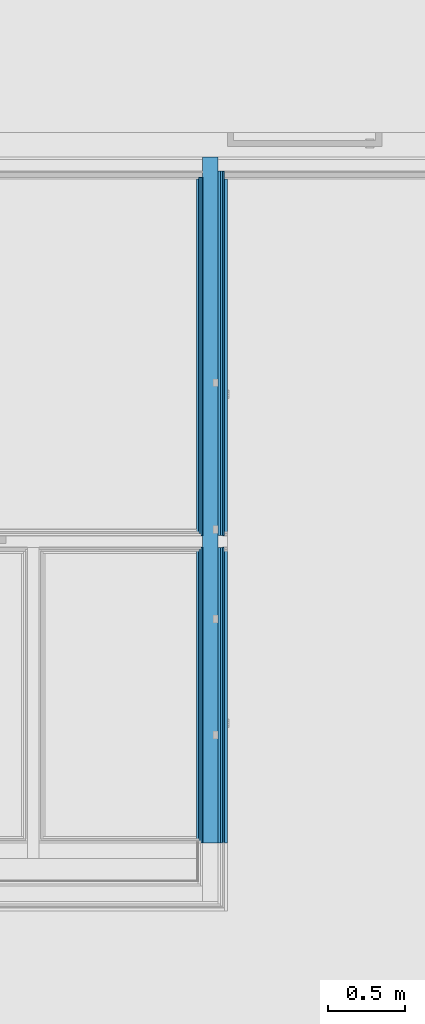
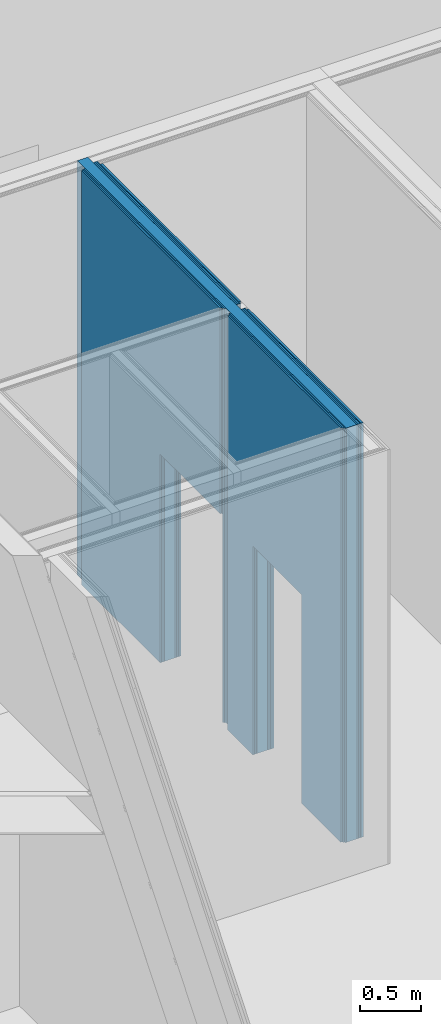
# One storey, part 150 of 260: 8 building element parts, 2 openings, 1 element without a shape of its own.
"""IFC2X3 building model written with IfcOpenShell, lengths in millimetres."""

from ifc_helpers import new_model, entity, si_unit, converted_unit, derived_unit, money_unit, direction, frame, origin_with_axes, place, context, subcontext, project, spatial, faceted_brep, material, type_object, element, aggregate, save


model = new_model("IFC2X3")

# Units and contexts
model_context = context("Model", 3, precision=0.01, world=origin_with_axes(), true_north=direction((0.0, 1.0)))
body_context = subcontext(model_context, "Body", "Model", "MODEL_VIEW")
ifc_project = project(units=[si_unit("LENGTHUNIT", "METRE", prefix="MILLI"), si_unit("AREAUNIT", "SQUARE_METRE"), si_unit("VOLUMEUNIT", "CUBIC_METRE"), converted_unit("PLANEANGLEUNIT", "DEGREE", entity("IfcPlaneAngleMeasure", 0.0174532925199), si_unit("PLANEANGLEUNIT", "RADIAN"), dimensions=[0, 0, 0, 0, 0, 0, 0]), money_unit("EUR"), converted_unit("TIMEUNIT", "Year", entity("IfcTimeMeasure", 31556926.0), si_unit("TIMEUNIT", "SECOND"), dimensions=[0, 0, 1, 0, 0, 0, 0]), si_unit("MASSUNIT", "GRAM", prefix="KILO"), si_unit("THERMODYNAMICTEMPERATUREUNIT", "DEGREE_CELSIUS"), si_unit("LUMINOUSINTENSITYUNIT", "LUMEN"), si_unit("ENERGYUNIT", "JOULE", prefix="MEGA"), derived_unit("THERMALCONDUCTANCEUNIT", [(si_unit("POWERUNIT", "WATT"), 1), (si_unit("LENGTHUNIT", "METRE"), -1), (si_unit("THERMODYNAMICTEMPERATUREUNIT", "KELVIN"), -1)]), derived_unit("SPECIFICHEATCAPACITYUNIT", [(si_unit("ENERGYUNIT", "JOULE"), 1), (si_unit("MASSUNIT", "GRAM", prefix="KILO"), -1), (si_unit("THERMODYNAMICTEMPERATUREUNIT", "KELVIN"), -1)]), derived_unit("MASSDENSITYUNIT", [(si_unit("MASSUNIT", "GRAM", prefix="KILO"), 1), (si_unit("VOLUMEUNIT", "CUBIC_METRE"), -1)])], contexts=[model_context])

# Site, building, storey
site_placement = place(None, origin_with_axes())
site = spatial("IfcSite", under=ifc_project, at=site_placement, Name="Kolde pst 67a", CompositionType="ELEMENT")
building_placement = place(site_placement, origin_with_axes())
building = spatial("IfcBuilding", under=site, at=building_placement, Name="Riigigümnaasium", CompositionType="ELEMENT")
storey_placement = place(building_placement, origin_with_axes())
storey = spatial("IfcBuildingStorey", under=building, at=storey_placement, Name="1. korrus", CompositionType="ELEMENT", Elevation=0.0)

# Wall, openings, building element parts
wall_type = type_object("IfcWallType", Name="SS-PK-10/2_vill100+dold+plaat 200", PredefinedType="NOTDEFINED")
wall_placement = place(storey_placement, frame((6499.99873186, 52239.9801745, 0.0), z_axis=(0.0, 0.0, 1.0), x_axis=(0.0, 1.0, 0.0)))
wall = element("IfcWall", 1, at=wall_placement, inside=storey, type_object=wall_type, Name="Sisesein")
opening_1_placement = place(wall_placement, frame((2504.0352353, 0.0, 0.0), z_axis=(0.0, 0.0, 1.0), x_axis=(1.0, 0.0, 0.0)))
element("IfcOpeningElement", 2, at=opening_1_placement, cuts=wall, Name="Siseuks", context=body_context, shape_type="Brep", body=[
    faceted_brep([(-500.0, 200.0, 2100.0), (-500.0, 200.0, 0.0), (-500.0, -400.0, 0.0), (-500.0, -400.0, 2100.0), (500.0, 200.0, 2100.0), (500.0, 200.0, 0.0), (500.0, -400.0, 0.0), (500.0, -400.0, 2100.0)], [[[0, 1, 2, 3]], [[0, 4, 5, 1]], [[1, 5, 6, 2]], [[3, 2, 6, 7]], [[4, 0, 3, 7]], [[5, 4, 7, 6]]]),
])
opening_2_placement = place(wall_placement, frame((1074.0352353, 0.0, 0.0), z_axis=(0.0, 0.0, 1.0), x_axis=(1.0, 0.0, 0.0)))
element("IfcOpeningElement", 3, at=opening_2_placement, cuts=wall, Name="Siseuks", context=body_context, shape_type="Brep", body=[
    faceted_brep([(400.0, -400.0, 2100.0), (400.0, -400.0, 0.0), (400.0, 200.0, 0.0), (400.0, 200.0, 2100.0), (-400.0, -400.0, 2100.0), (-400.0, -400.0, 0.0), (-400.0, 200.0, 0.0), (-400.0, 200.0, 2100.0)], [[[0, 1, 2, 3]], [[0, 4, 5, 1]], [[1, 5, 6, 2]], [[3, 2, 6, 7]], [[4, 0, 3, 7]], [[5, 4, 7, 6]]]),
])
ifc_material_1 = material(Name="_VIIMISTLUSKIHT - viimistlus vastavalt SA osale")
building_element_part_1_placement = place(wall_placement, origin_with_axes())
building_element_part_1 = element("IfcBuildingElementPart", 4, at=building_element_part_1_placement, material=ifc_material_1, Name="_VIIMISTLUSKIHT - viimistlus vastavalt SA osale", context=body_context, shape_type="Brep", body=[
    faceted_brep([(674.035235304, -15.0, 0.0), (674.035235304, -15.0, 2100.0), (1474.0352353, -15.0, 2100.0), (1474.0352353, -15.0, 0.0), (1889.0352353, -15.0, 0.0), (1889.0352353, -15.0, 4170.0), (25.0, -15.0, 4170.0), (25.0, -15.0, 0.0), (674.035235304, 0.0, 0.0), (674.035235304, 0.0, 2100.0), (1474.0352353, 0.0, 2100.0), (1474.0352353, 0.0, 0.0), (1889.0352353, 0.0, 0.0), (1889.0352353, 0.0, 4170.0), (25.0, 0.0, 4170.0), (25.0, 0.0, 0.0)], [[[0, 1, 2, 3, 4, 5, 6, 7]], [[1, 0, 8, 9]], [[2, 1, 9, 10]], [[3, 2, 10, 11]], [[3, 11, 12, 4]], [[5, 4, 12, 13]], [[5, 13, 14, 6]], [[14, 15, 7, 6]], [[8, 0, 7, 15]], [[9, 8, 15, 14, 13, 12, 11, 10]]]),
    faceted_brep([(3004.0352353, -15.0, 2100.0), (3004.0352353, -15.0, 0.0), (4300.01777339, -15.0, 0.0), (4300.01777339, -15.0, 4170.0), (2014.0352353, -15.0, 4170.0), (2014.0352353, -15.0, 2100.0), (3004.0352353, 0.0, 2100.0), (3004.0352353, 0.0, 0.0), (4300.01777339, 0.0, 0.0), (4300.01777339, 0.0, 4170.0), (2014.0352353, 0.0, 4170.0), (2014.0352353, 0.0, 2100.0)], [[[0, 1, 2, 3, 4, 5]], [[1, 0, 6, 7]], [[1, 7, 8, 2]], [[3, 2, 8, 9]], [[3, 9, 10, 4]], [[11, 5, 4, 10]], [[0, 5, 11, 6]], [[6, 11, 10, 9, 8, 7]]]),
])
ifc_material_2 = material(Name="_PLAATMATERJAL - kipsplaat veekindel")
building_element_part_2_placement = place(wall_placement, origin_with_axes())
building_element_part_2 = element("IfcBuildingElementPart", 5, at=building_element_part_2_placement, material=ifc_material_2, Name="_PLAATMATERJAL - kipsplaat veekindel", context=body_context, shape_type="Brep", body=[
    faceted_brep([(674.035235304, -27.5, 0.0), (674.035235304, -27.5, 2100.0), (1474.0352353, -27.5, 2100.0), (1474.0352353, -27.5, 0.0), (1901.5352353, -27.5, 0.0), (1901.5352353, -27.5, 4170.0), (12.5, -27.5, 4170.0), (12.5, -27.5, 0.0), (674.035235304, -15.0, 0.0), (674.035235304, -15.0, 2100.0), (1474.0352353, -15.0, 2100.0), (1474.0352353, -15.0, 0.0), (1901.5352353, -15.0, 0.0), (1901.5352353, -15.0, 4170.0), (12.5, -15.0, 4170.0), (12.5, -15.0, 0.0)], [[[0, 1, 2, 3, 4, 5, 6, 7]], [[1, 0, 8, 9]], [[2, 1, 9, 10]], [[3, 2, 10, 11]], [[3, 11, 12, 4]], [[5, 4, 12, 13]], [[5, 13, 14, 6]], [[14, 15, 7, 6]], [[8, 0, 7, 15]], [[9, 8, 15, 14, 13, 12, 11, 10]]]),
    faceted_brep([(2004.0352353, -27.5, 0.0), (2004.0352353, -27.5, 2100.0), (3004.0352353, -27.5, 2100.0), (3004.0352353, -27.5, 0.0), (4310.01777339, -27.5, 0.0), (4310.01777339, -27.5, 4170.0), (2001.5352353, -27.5, 4170.0), (2001.5352353, -27.5, 0.0), (2004.0352353, -15.0, 0.0), (2004.0352353, -15.0, 2100.0), (3004.0352353, -15.0, 2100.0), (3004.0352353, -15.0, 0.0), (4310.01777339, -15.0, 0.0), (4310.01777339, -15.0, 4170.0), (2001.5352353, -15.0, 4170.0), (2001.5352353, -15.0, 0.0)], [[[0, 1, 2, 3, 4, 5, 6, 7]], [[1, 0, 8, 9]], [[2, 1, 9, 10]], [[3, 2, 10, 11]], [[3, 11, 12, 4]], [[5, 4, 12, 13]], [[5, 13, 14, 6]], [[14, 15, 7, 6]], [[8, 0, 7, 15]], [[9, 8, 15, 14, 13, 12, 11, 10]]]),
])
building_element_part_3_placement = place(wall_placement, origin_with_axes())
building_element_part_3 = element("IfcBuildingElementPart", 6, at=building_element_part_3_placement, material=ifc_material_2, Name="_PLAATMATERJAL - kipsplaat veekindel", context=body_context, shape_type="Brep", body=[
    faceted_brep([(674.035235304, -40.0, 0.0), (674.035235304, -40.0, 2100.0), (1474.0352353, -40.0, 2100.0), (1474.0352353, -40.0, 0.0), (1914.0352353, -40.0, 0.0), (1914.0352353, -40.0, 4170.0), (0.0, -40.0, 4170.0), (0.0, -40.0, 0.0), (674.035235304, -27.5, 0.0), (674.035235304, -27.5, 2100.0), (1474.0352353, -27.5, 2100.0), (1474.0352353, -27.5, 0.0), (1914.0352353, -27.5, 0.0), (1914.0352353, -27.5, 4170.0), (0.0, -27.5, 4170.0), (0.0, -27.5, 0.0)], [[[0, 1, 2, 3, 4, 5, 6, 7]], [[1, 0, 8, 9]], [[2, 1, 9, 10]], [[3, 2, 10, 11]], [[3, 11, 12, 4]], [[5, 4, 12, 13]], [[5, 13, 14, 6]], [[14, 15, 7, 6]], [[8, 0, 7, 15]], [[9, 8, 15, 14, 13, 12, 11, 10]]]),
    faceted_brep([(2004.0352353, -40.0, 0.0), (2004.0352353, -40.0, 2100.0), (3004.0352353, -40.0, 2100.0), (3004.0352353, -40.0, 0.0), (4310.01777339, -40.0, 0.0), (4310.01777339, -40.0, 4170.0), (1989.0352353, -40.0, 4170.0), (1989.0352353, -40.0, 0.0), (2004.0352353, -27.5, 0.0), (2004.0352353, -27.5, 2100.0), (3004.0352353, -27.5, 2100.0), (3004.0352353, -27.5, 0.0), (4310.01777339, -27.5, 0.0), (4310.01777339, -27.5, 4170.0), (1989.0352353, -27.5, 4170.0), (1989.0352353, -27.5, 0.0)], [[[0, 1, 2, 3, 4, 5, 6, 7]], [[1, 0, 8, 9]], [[2, 1, 9, 10]], [[3, 2, 10, 11]], [[3, 11, 12, 4]], [[5, 4, 12, 13]], [[5, 13, 14, 6]], [[14, 15, 7, 6]], [[8, 0, 7, 15]], [[9, 8, 15, 14, 13, 12, 11, 10]]]),
])
ifc_material_3 = material(Name="_KARKASS - puitpruss 100x50mm vertikaalne, samm 600mm, vahel mineraalvill, helineeldetegur αw = 1.0, ISOVER ACOUSTIC 100mm või samaväärne")
building_element_part_4_placement = place(wall_placement, origin_with_axes())
building_element_part_4 = element("IfcBuildingElementPart", 7, at=building_element_part_4_placement, material=ifc_material_3, Name="_KARKASS - puitpruss 100x50mm vertikaalne, samm 600mm, vahel mineraalvill, helineeldetegur αw = 1.0, ISOVER ACOUSTIC 100mm või samaväärne", context=body_context, shape_type="Brep", body=[
    faceted_brep([(674.035235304, -140.0, 0.0), (674.035235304, -140.0, 2100.0), (1474.0352353, -140.0, 2100.0), (1474.0352353, -140.0, 0.0), (2004.0352353, -140.0, 0.0), (2004.0352353, -140.0, 2100.0), (3004.0352353, -140.0, 2100.0), (3004.0352353, -140.0, 0.0), (4440.01777339, -140.0, 0.0), (4440.01777339, -140.0, 4170.0), (0.0, -140.0, 4170.0), (0.0, -140.0, 0.0), (674.035235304, -40.0, 0.0), (674.035235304, -40.0, 2100.0), (1474.0352353, -40.0, 2100.0), (1474.0352353, -40.0, 0.0), (2004.0352353, -40.0, 0.0), (2004.0352353, -40.0, 2100.0), (3004.0352353, -40.0, 2100.0), (3004.0352353, -40.0, 0.0), (4440.01777339, -40.0, 0.0), (4440.01777339, -40.0, 4170.0), (0.0, -40.0, 4170.0), (0.0, -40.0, 0.0)], [[[0, 1, 2, 3, 4, 5, 6, 7, 8, 9, 10, 11]], [[1, 0, 12, 13]], [[2, 1, 13, 14]], [[3, 2, 14, 15]], [[3, 15, 16, 4]], [[4, 16, 17, 5]], [[5, 17, 18, 6]], [[6, 18, 19, 7]], [[19, 20, 8, 7]], [[8, 20, 21, 9]], [[21, 22, 10, 9]], [[23, 11, 10, 22]], [[12, 0, 11, 23]], [[13, 12, 23, 22, 21, 20, 19, 18, 17, 16, 15, 14]]]),
])
ifc_material_4 = material(Name="_PLAATMATERJAL - tuletõkkekipsplaat, Knauf Red GKF või samaväärne")
building_element_part_5_placement = place(wall_placement, origin_with_axes())
building_element_part_5 = element("IfcBuildingElementPart", 8, at=building_element_part_5_placement, material=ifc_material_4, Name="_PLAATMATERJAL - tuletõkkekipsplaat, Knauf Red GKF või samaväärne", context=body_context, shape_type="Brep", body=[
    faceted_brep([(674.035235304, -155.0, 0.0), (674.035235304, -155.0, 2100.0), (1474.0352353, -155.0, 2100.0), (1474.0352353, -155.0, 0.0), (1914.0352353, -155.0, 0.0), (1914.0352353, -155.0, 4170.0), (0.0, -155.0, 4170.0), (0.0, -155.0, 0.0), (674.035235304, -140.0, 0.0), (674.035235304, -140.0, 2100.0), (1474.0352353, -140.0, 2100.0), (1474.0352353, -140.0, 0.0), (1914.0352353, -140.0, 0.0), (1914.0352353, -140.0, 4170.0), (0.0, -140.0, 4170.0), (0.0, -140.0, 0.0)], [[[0, 1, 2, 3, 4, 5, 6, 7]], [[1, 0, 8, 9]], [[2, 1, 9, 10]], [[3, 2, 10, 11]], [[3, 11, 12, 4]], [[5, 4, 12, 13]], [[5, 13, 14, 6]], [[14, 15, 7, 6]], [[8, 0, 7, 15]], [[9, 8, 15, 14, 13, 12, 11, 10]]]),
    faceted_brep([(2004.0352353, -155.0, 0.0), (2004.0352353, -155.0, 2100.0), (3004.0352353, -155.0, 2100.0), (3004.0352353, -155.0, 0.0), (4350.01777339, -155.0, 0.0), (4350.01777339, -155.0, 4170.0), (1989.0352353, -155.0, 4170.0), (1989.0352353, -155.0, 0.0), (2004.0352353, -140.0, 0.0), (2004.0352353, -140.0, 2100.0), (3004.0352353, -140.0, 2100.0), (3004.0352353, -140.0, 0.0), (4350.01777339, -140.0, 0.0), (4350.01777339, -140.0, 4170.0), (1989.0352353, -140.0, 4170.0), (1989.0352353, -140.0, 0.0)], [[[0, 1, 2, 3, 4, 5, 6, 7]], [[1, 0, 8, 9]], [[2, 1, 9, 10]], [[3, 2, 10, 11]], [[3, 11, 12, 4]], [[5, 4, 12, 13]], [[5, 13, 14, 6]], [[14, 15, 7, 6]], [[8, 0, 7, 15]], [[9, 8, 15, 14, 13, 12, 11, 10]]]),
])
building_element_part_6_placement = place(wall_placement, origin_with_axes())
building_element_part_6 = element("IfcBuildingElementPart", 9, at=building_element_part_6_placement, material=ifc_material_4, Name="_PLAATMATERJAL - tuletõkkekipsplaat, Knauf Red GKF või samaväärne", context=body_context, shape_type="Brep", body=[
    faceted_brep([(674.035235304, -170.0, 0.0), (674.035235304, -170.0, 2100.0), (1474.0352353, -170.0, 2100.0), (1474.0352353, -170.0, 0.0), (1914.0352353, -170.0, 0.0), (1914.0352353, -170.0, 4170.0), (0.0, -170.0, 4170.0), (0.0, -170.0, 0.0), (674.035235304, -155.0, 0.0), (674.035235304, -155.0, 2100.0), (1474.0352353, -155.0, 2100.0), (1474.0352353, -155.0, 0.0), (1914.0352353, -155.0, 0.0), (1914.0352353, -155.0, 4170.0), (0.0, -155.0, 4170.0), (0.0, -155.0, 0.0)], [[[0, 1, 2, 3, 4, 5, 6, 7]], [[1, 0, 8, 9]], [[2, 1, 9, 10]], [[3, 2, 10, 11]], [[3, 11, 12, 4]], [[5, 4, 12, 13]], [[5, 13, 14, 6]], [[14, 15, 7, 6]], [[8, 0, 7, 15]], [[9, 8, 15, 14, 13, 12, 11, 10]]]),
    faceted_brep([(2004.0352353, -170.0, 0.0), (2004.0352353, -170.0, 2100.0), (3004.0352353, -170.0, 2100.0), (3004.0352353, -170.0, 0.0), (4350.01777339, -170.0, 0.0), (4350.01777339, -170.0, 4170.0), (1989.0352353, -170.0, 4170.0), (1989.0352353, -170.0, 0.0), (2004.0352353, -155.0, 0.0), (2004.0352353, -155.0, 2100.0), (3004.0352353, -155.0, 2100.0), (3004.0352353, -155.0, 0.0), (4350.01777339, -155.0, 0.0), (4350.01777339, -155.0, 4170.0), (1989.0352353, -155.0, 4170.0), (1989.0352353, -155.0, 0.0)], [[[0, 1, 2, 3, 4, 5, 6, 7]], [[1, 0, 8, 9]], [[2, 1, 9, 10]], [[3, 2, 10, 11]], [[3, 11, 12, 4]], [[5, 4, 12, 13]], [[5, 13, 14, 6]], [[14, 15, 7, 6]], [[8, 0, 7, 15]], [[9, 8, 15, 14, 13, 12, 11, 10]]]),
])
ifc_material_5 = material(Name="_KARKASS - eriprofiilkinnitus vastavalt sisemisele plaatviimistlusele")
building_element_part_7_placement = place(wall_placement, origin_with_axes())
building_element_part_7 = element("IfcBuildingElementPart", 10, at=building_element_part_7_placement, material=ifc_material_5, Name="_KARKASS - eriprofiilkinnitus vastavalt sisemisele plaatviimistlusele", context=body_context, shape_type="Brep", body=[
    faceted_brep([(674.035235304, -180.0, 0.0), (674.035235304, -180.0, 2100.0), (1474.0352353, -180.0, 2100.0), (1474.0352353, -180.0, 0.0), (1914.0352353, -180.0, 0.0), (1914.0352353, -180.0, 4170.0), (0.0, -180.0, 4170.0), (0.0, -180.0, 0.0), (674.035235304, -170.0, 0.0), (674.035235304, -170.0, 2100.0), (1474.0352353, -170.0, 2100.0), (1474.0352353, -170.0, 0.0), (1914.0352353, -170.0, 0.0), (1914.0352353, -170.0, 4170.0), (0.0, -170.0, 4170.0), (0.0, -170.0, 0.0)], [[[0, 1, 2, 3, 4, 5, 6, 7]], [[1, 0, 8, 9]], [[2, 1, 9, 10]], [[3, 2, 10, 11]], [[3, 11, 12, 4]], [[5, 4, 12, 13]], [[5, 13, 14, 6]], [[14, 15, 7, 6]], [[8, 0, 7, 15]], [[9, 8, 15, 14, 13, 12, 11, 10]]]),
    faceted_brep([(2004.0352353, -180.0, 0.0), (2004.0352353, -180.0, 2100.0), (3004.0352353, -180.0, 2100.0), (3004.0352353, -180.0, 0.0), (4350.01777339, -180.0, 0.0), (4350.01777339, -180.0, 4170.0), (1989.0352353, -180.0, 4170.0), (1989.0352353, -180.0, 0.0), (2004.0352353, -170.0, 0.0), (2004.0352353, -170.0, 2100.0), (3004.0352353, -170.0, 2100.0), (3004.0352353, -170.0, 0.0), (4350.01777339, -170.0, 0.0), (4350.01777339, -170.0, 4170.0), (1989.0352353, -170.0, 4170.0), (1989.0352353, -170.0, 0.0)], [[[0, 1, 2, 3, 4, 5, 6, 7]], [[1, 0, 8, 9]], [[2, 1, 9, 10]], [[3, 2, 10, 11]], [[3, 11, 12, 4]], [[5, 4, 12, 13]], [[5, 13, 14, 6]], [[14, 15, 7, 6]], [[8, 0, 7, 15]], [[9, 8, 15, 14, 13, 12, 11, 10]]]),
])
building_element_part_8_placement = place(wall_placement, origin_with_axes())
building_element_part_8 = element("IfcBuildingElementPart", 11, at=building_element_part_8_placement, material=ifc_material_1, Name="_VIIMISTLUSKIHT - viimistlus vastavalt SA osale", context=body_context, shape_type="Brep", body=[
    faceted_brep([(674.035235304, -200.0, 0.0), (674.035235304, -200.0, 2100.0), (1474.0352353, -200.0, 2100.0), (1474.0352353, -200.0, 0.0), (1889.0352353, -200.0, 0.0), (1889.0352353, -200.0, 4170.0), (0.0, -200.0, 4170.0), (0.0, -200.0, 0.0), (674.035235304, -180.0, 0.0), (674.035235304, -180.0, 2100.0), (1474.0352353, -180.0, 2100.0), (1474.0352353, -180.0, 0.0), (1889.0352353, -180.0, 0.0), (1889.0352353, -180.0, 4170.0), (0.0, -180.0, 4170.0), (0.0, -180.0, 0.0)], [[[0, 1, 2, 3, 4, 5, 6, 7]], [[1, 0, 8, 9]], [[2, 1, 9, 10]], [[3, 2, 10, 11]], [[3, 11, 12, 4]], [[5, 4, 12, 13]], [[5, 13, 14, 6]], [[14, 15, 7, 6]], [[8, 0, 7, 15]], [[9, 8, 15, 14, 13, 12, 11, 10]]]),
    faceted_brep([(3004.0352353, -200.0, 2100.0), (3004.0352353, -200.0, 0.0), (4300.01777339, -200.0, 0.0), (4300.01777339, -200.0, 4170.0), (2014.0352353, -200.0, 4170.0), (2014.0352353, -200.0, 2100.0), (3004.0352353, -180.0, 2100.0), (3004.0352353, -180.0, 0.0), (4300.01777339, -180.0, 0.0), (4300.01777339, -180.0, 4170.0), (2014.0352353, -180.0, 4170.0), (2014.0352353, -180.0, 2100.0)], [[[0, 1, 2, 3, 4, 5]], [[1, 0, 6, 7]], [[1, 7, 8, 2]], [[3, 2, 8, 9]], [[3, 9, 10, 4]], [[11, 5, 4, 10]], [[0, 5, 11, 6]], [[6, 11, 10, 9, 8, 7]]]),
])
aggregate(wall, [building_element_part_1, building_element_part_2, building_element_part_3, building_element_part_4, building_element_part_5, building_element_part_6, building_element_part_7, building_element_part_8])

save(model, "model.ifc")
